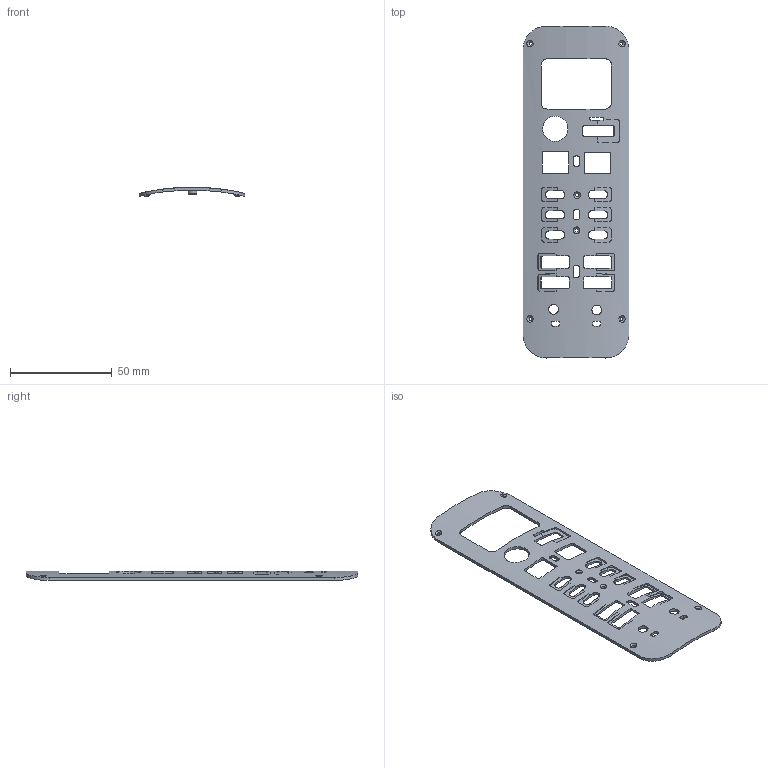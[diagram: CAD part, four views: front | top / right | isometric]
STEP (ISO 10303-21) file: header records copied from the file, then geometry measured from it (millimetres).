
FILE_DESCRIPTION(('Open CASCADE Model'),'2;1');
FILE_NAME('Open CASCADE Shape Model','2026-10-02T16:20:41',('Author'),( 'Open CASCADE'),'Open CASCADE STEP processor 7.9','Open CASCADE 7.9' ,'Unknown');
FILE_SCHEMA(('AUTOMOTIVE_DESIGN { 1 0 10303 214 1 1 1 1 }'));
Length unit declared in the file: millimetre
Products named in the file (1): Open CASCADE STEP translator 7.9 1
Bounding box: 51.9 x 163.1 x 4.7 mm (x, y, z)
Volume: 8811 mm3; surface area: 14604.2 mm2
Topology: 1 solids, 1 shells, 269 faces, 780 edges, 518 vertices
Faces by surface type: plane 134, cylinder 123, cone 12
Full cylindrical faces by diameter (mm): 1.8 x6, 2.6 x1, 2.8 x4, 4.2 x1, 4.8 x2, 12.4 x1
Entity records: 29206 total; most frequent: CARTESIAN_POINT 15140, DIRECTION 2141, ORIENTED_EDGE 1560, PCURVE 1560, DEFINITIONAL_REPRESENTATION 1560, LINE 1155, VECTOR 1155, B_SPLINE_CURVE_WITH_KNOTS 841
